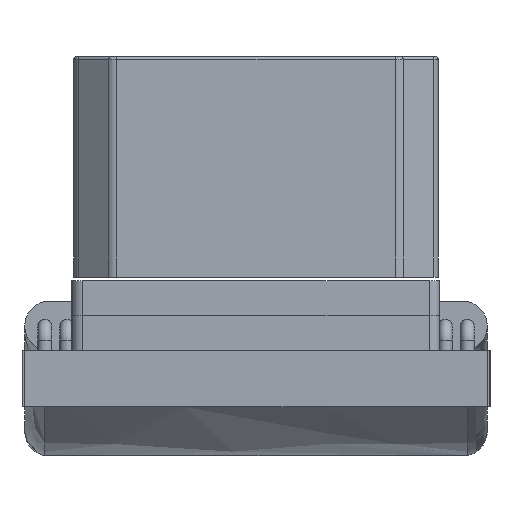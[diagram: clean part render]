
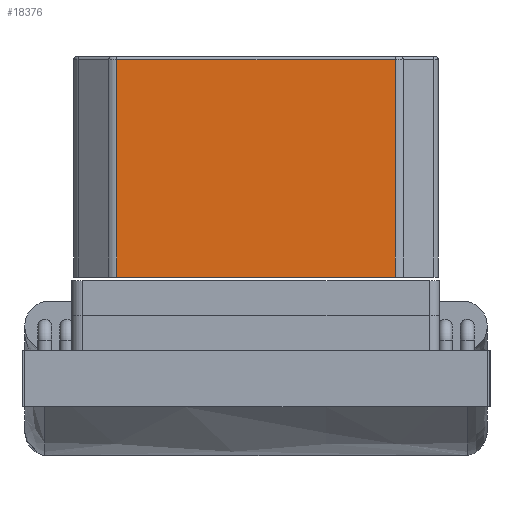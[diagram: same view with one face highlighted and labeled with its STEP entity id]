
A CAD part, front view. The second image highlights one B-rep face of the part: STEP entity #18376.
In plain terms, the highlighted planar face has unit normal (0, -1, 0) as drawn and (0, 1, 0) by its records, which use the part's own axes.
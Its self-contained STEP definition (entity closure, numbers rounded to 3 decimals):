
#17163 = VERTEX_POINT('',#17164);
#17164 = CARTESIAN_POINT('',(3.972,-3.,6.3));
#17171 = EDGE_CURVE('',#17172,#17163,#17174,.T.);
#17172 = VERTEX_POINT('',#17173);
#17173 = CARTESIAN_POINT('',(-3.972,-3.,6.3));
#17174 = LINE('',#17175,#17176);
#17175 = CARTESIAN_POINT('',(-4.1,-3.,6.3));
#17176 = VECTOR('',#17177,1.);
#17177 = DIRECTION('',(1.,0.,0.));
#18376 = ADVANCED_FACE('',(#18377),#18402,.F.);
#18377 = FACE_BOUND('',#18378,.T.);
#18378 = EDGE_LOOP('',(#18379,#18387,#18395,#18401));
#18379 = ORIENTED_EDGE('',*,*,#18380,.T.);
#18380 = EDGE_CURVE('',#17163,#18381,#18383,.T.);
#18381 = VERTEX_POINT('',#18382);
#18382 = CARTESIAN_POINT('',(3.972,-3.,0.1));
#18383 = LINE('',#18384,#18385);
#18384 = CARTESIAN_POINT('',(3.972,-3.,0.));
#18385 = VECTOR('',#18386,1.);
#18386 = DIRECTION('',(0.,0.,-1.));
#18387 = ORIENTED_EDGE('',*,*,#18388,.T.);
#18388 = EDGE_CURVE('',#18381,#18389,#18391,.T.);
#18389 = VERTEX_POINT('',#18390);
#18390 = CARTESIAN_POINT('',(-3.972,-3.,0.1));
#18391 = LINE('',#18392,#18393);
#18392 = CARTESIAN_POINT('',(-3.972,-3.,0.1));
#18393 = VECTOR('',#18394,1.);
#18394 = DIRECTION('',(-1.,0.,0.));
#18395 = ORIENTED_EDGE('',*,*,#18396,.T.);
#18396 = EDGE_CURVE('',#18389,#17172,#18397,.T.);
#18397 = LINE('',#18398,#18399);
#18398 = CARTESIAN_POINT('',(-3.972,-3.,0.));
#18399 = VECTOR('',#18400,1.);
#18400 = DIRECTION('',(0.,0.,1.));
#18401 = ORIENTED_EDGE('',*,*,#17171,.T.);
#18402 = PLANE('',#18403);
#18403 = AXIS2_PLACEMENT_3D('',#18404,#18405,#18406);
#18404 = CARTESIAN_POINT('',(-4.1,-3.,0.));
#18405 = DIRECTION('',(0.,-1.,0.));
#18406 = DIRECTION('',(0.,0.,-1.));
